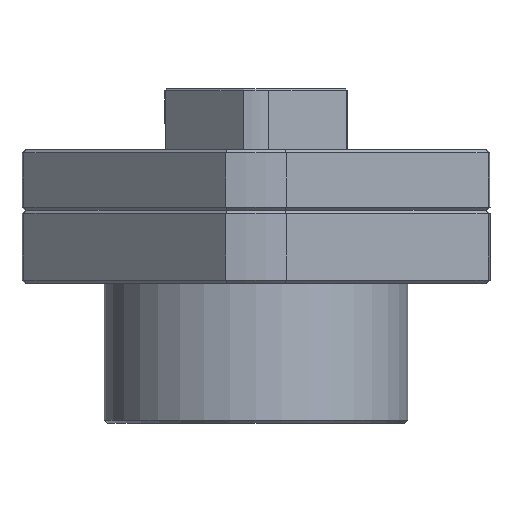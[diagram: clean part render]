
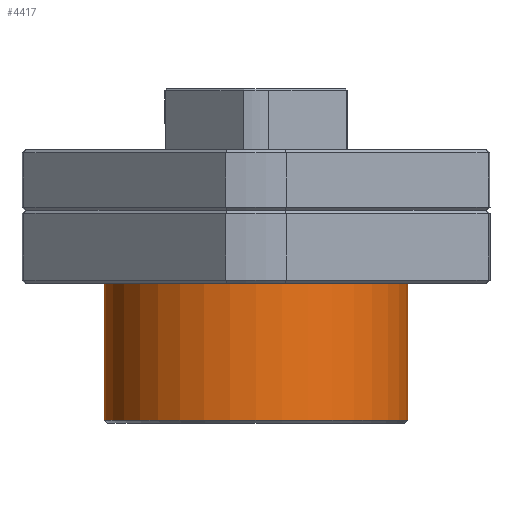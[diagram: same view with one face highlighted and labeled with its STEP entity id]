
A CAD part, left-side view. The second image highlights one B-rep face of the part: STEP entity #4417.
In plain terms, the highlighted cylindrical face has radius 25 mm (diameter 50 mm), a partial arc.
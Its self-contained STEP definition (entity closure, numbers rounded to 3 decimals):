
#89 = EDGE_LOOP ( 'NONE', ( #7712, #7709, #7710, #7708 ) ) ;
#693 = AXIS2_PLACEMENT_3D ( 'NONE', #10826, #10833, #10834 ) ;
#963 = VECTOR ( 'NONE', #12808, 1000. ) ;
#1083 = VECTOR ( 'NONE', #12814, 1000. ) ;
#1107 = AXIS2_PLACEMENT_3D ( 'NONE', #12802, #12809, #12810 ) ;
#2162 = FACE_OUTER_BOUND ( 'NONE', #89, .T. ) ;
#2325 = AXIS2_PLACEMENT_3D ( 'NONE', #6924, #6925, #6926 ) ;
#2328 = CYLINDRICAL_SURFACE ( 'NONE', #2325, 25. ) ;
#4417 = ADVANCED_FACE ( 'NONE', ( #2162 ), #2328, .T. ) ;
#5027 = CIRCLE ( 'NONE', #1107, 25. ) ;
#5056 = CIRCLE ( 'NONE', #693, 25. ) ;
#6924 = CARTESIAN_POINT ( 'NONE',  ( 0., 0., -17.5 ) ) ;
#6925 = DIRECTION ( 'NONE',  ( 0., 0., -1. ) ) ;
#6926 = DIRECTION ( 'NONE',  ( 0., -1., 0. ) ) ;
#7708 = ORIENTED_EDGE ( 'NONE', *, *, #8296, .F. ) ;
#7709 = ORIENTED_EDGE ( 'NONE', *, *, #8298, .T. ) ;
#7710 = ORIENTED_EDGE ( 'NONE', *, *, #8356, .T. ) ;
#7712 = ORIENTED_EDGE ( 'NONE', *, *, #8297, .T. ) ;
#8296 = EDGE_CURVE ( 'NONE', #10328, #10279, #12806, .T. ) ;
#8297 = EDGE_CURVE ( 'NONE', #10328, #10329, #5027, .T. ) ;
#8298 = EDGE_CURVE ( 'NONE', #10329, #10280, #12812, .T. ) ;
#8356 = EDGE_CURVE ( 'NONE', #10280, #10279, #5056, .T. ) ;
#10279 = VERTEX_POINT ( 'NONE', #12129 ) ;
#10280 = VERTEX_POINT ( 'NONE', #12130 ) ;
#10328 = VERTEX_POINT ( 'NONE', #12178 ) ;
#10329 = VERTEX_POINT ( 'NONE', #12179 ) ;
#10826 = CARTESIAN_POINT ( 'NONE',  ( 0., 0., -17. ) ) ;
#10833 = DIRECTION ( 'NONE',  ( 0., 0., 1. ) ) ;
#10834 = DIRECTION ( 'NONE',  ( 0., 1., 0. ) ) ;
#12129 = CARTESIAN_POINT ( 'NONE',  ( 0., -25., -17. ) ) ;
#12130 = CARTESIAN_POINT ( 'NONE',  ( 0., 25., -17. ) ) ;
#12178 = CARTESIAN_POINT ( 'NONE',  ( 0., -25., 5.5 ) ) ;
#12179 = CARTESIAN_POINT ( 'NONE',  ( 0., 25., 5.5 ) ) ;
#12802 = CARTESIAN_POINT ( 'NONE',  ( 0., 0., 5.5 ) ) ;
#12806 = LINE ( 'NONE', #12807, #963 ) ;
#12807 = CARTESIAN_POINT ( 'NONE',  ( 0., -25., -17.5 ) ) ;
#12808 = DIRECTION ( 'NONE',  ( 0., 0., -1. ) ) ;
#12809 = DIRECTION ( 'NONE',  ( 0., 0., -1. ) ) ;
#12810 = DIRECTION ( 'NONE',  ( 0., -1., 0. ) ) ;
#12812 = LINE ( 'NONE', #12813, #1083 ) ;
#12813 = CARTESIAN_POINT ( 'NONE',  ( 0., 25., -17.5 ) ) ;
#12814 = DIRECTION ( 'NONE',  ( 0., 0., -1. ) ) ;
